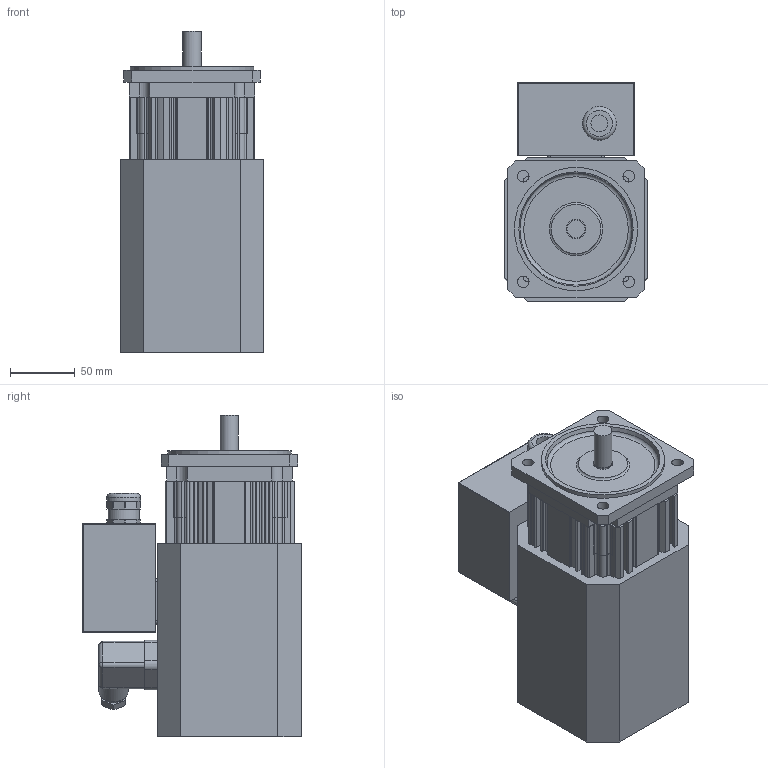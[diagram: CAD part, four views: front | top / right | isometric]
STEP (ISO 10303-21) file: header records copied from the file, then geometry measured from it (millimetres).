
FILE_DESCRIPTION(/* description */ (''),/* implementation_level */ '2;1');
FILE_NAME(/* name */ 'KSA444_FS',/* time_stamp */ '2009-02-26T14:11:33+01:00',/* author */ (''),/* organization */ (''),/* preprocessor_version */ 'ST-DEVELOPER v8',/* originating_system */ 'UNIGRAPHICS SOLUTIONS - UNIGRAPHICS 18.0',/* authorisation */ '');
FILE_SCHEMA (('AUTOMOTIVE_DESIGN { 1 2 10303 214 0 1 1 1 }'));
Length unit declared in the file: millimetre
Products named in the file (7): 0280391350_0; 014146_0; 014145_0; Lagersch4AS_0; 089105X_0; Klemmenkasten_0; KSA444_FS_0
Assembly tree (6 placements, depth 3):
  KSA444_FS_0
    089105X_0
    Lagersch4AS_0
    Klemmenkasten_0
      0280391350_0
    014145_0
    014146_0
Bounding box: 110.7 x 168.2 x 247 mm (x, y, z)
Volume: 2708070.8 mm3; surface area: 291516 mm2
Topology: 7 solids, 7 shells, 539 faces, 1473 edges, 961 vertices
Faces by surface type: plane 258, cylinder 257, cone 8, sphere 8, torus 4, bspline 4
Full cylindrical faces by diameter (mm): 3.2 x1, 3.5 x4, 4.5 x1, 5 x2, 6.5 x4, 9 x4, 13 x2, 14 x1, 15 x1, 17 x1, 18 x1, 20 x1, 22.5 x1, 24 x1, 26 x1, 89.6 x2, 91 x1, 95 x1
Entity records: 17159 total; most frequent: CARTESIAN_POINT 3041, DIRECTION 3032, ORIENTED_EDGE 2832, EDGE_CURVE 1416, AXIS2_PLACEMENT_3D 1090, VERTEX_POINT 950, LINE 852, VECTOR 852
